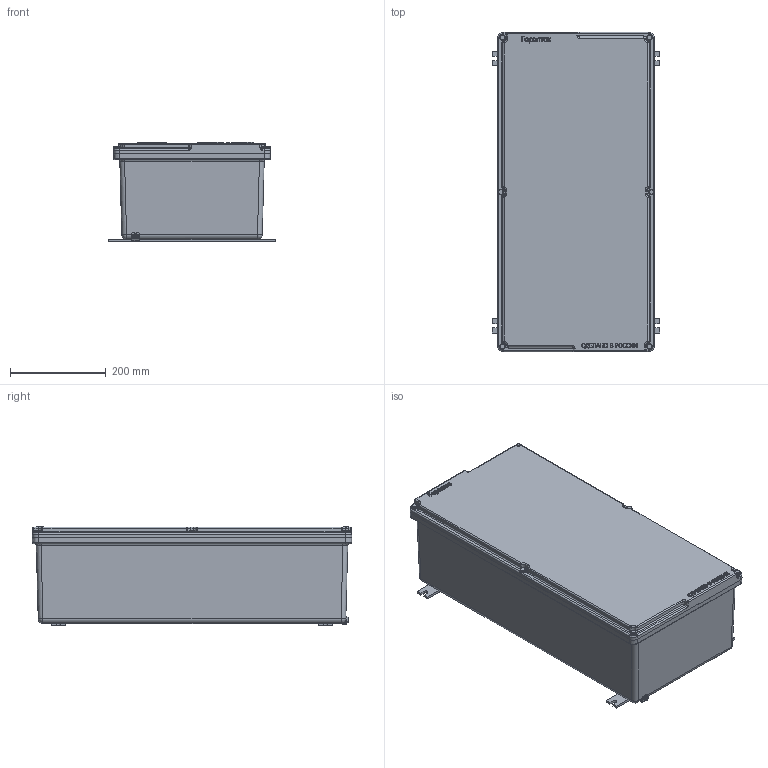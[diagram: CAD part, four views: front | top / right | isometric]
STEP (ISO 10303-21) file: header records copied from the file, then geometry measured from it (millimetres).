
FILE_DESCRIPTION((''),'2;1');
FILE_NAME('\\192.168.5.25\cortem_klient\INVENTOR БАЗА МОДЕЛЕЙ\Актуальная база моделей для отдела продаж\КСРВ\KCPB663221_M1.stp','2019-04-09T11:31:57',('A.S.Kozlov'),(''),'Autodesk Inventor 2012','Autodesk Inventor 2012','');
FILE_SCHEMA(('CONFIG_CONTROL_DESIGN'));
Length unit declared in the file: millimetre
Products named in the file (1): KCPB663221_M1_Внешний контур_1
Bounding box: 350 x 669.1 x 209 mm (x, y, z)
Surface area: 1661128 mm2 (no closed solid volume)
Topology: 0 solids, 33 shells, 1677 faces, 4106 edges, 2552 vertices
Faces by surface type: plane 589, bspline 515, cylinder 378, cone 114, torus 57, sphere 24
Full cylindrical faces by diameter (mm): 4.9 x17, 4.917 x1, 5 x4, 5.459 x6, 6 x9, 6.4 x6, 6.5 x8, 6.6 x4, 7.9 x3, 8 x4, 8.7 x6, 9 x4, 12 x6, 15.24 x4
Entity records: 63912 total; most frequent: CARTESIAN_POINT 26075, ORIENTED_EDGE 7838, DIRECTION 6428, EDGE_CURVE 3919, VERTEX_POINT 2514, AXIS2_PLACEMENT_3D 2263, EDGE_LOOP 1946, VECTOR 1902
